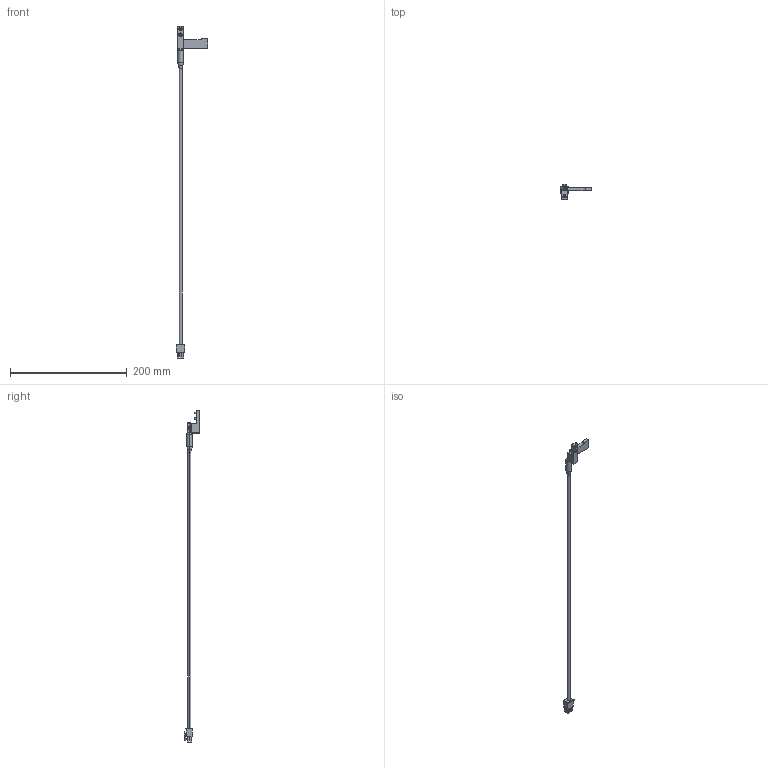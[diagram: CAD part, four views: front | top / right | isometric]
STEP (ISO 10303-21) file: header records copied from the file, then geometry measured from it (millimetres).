
FILE_DESCRIPTION (( 'STEP AP214' ), '1' );
FILE_NAME ('12ZP1660.STEP', '2013-10-10T05:50:26', ( '' ), ( '' ), 'SwSTEP 2.0', 'SolidWorks 2011', '' );
FILE_SCHEMA (( 'AUTOMOTIVE_DESIGN' ));
Length unit declared in the file: millimetre
Products named in the file (1): 12ZP1660
Bounding box: 53.39 x 27.1 x 569.5 mm (x, y, z)
Volume: 22012.5 mm3; surface area: 15533.7 mm2
Topology: 9 solids, 9 shells, 242 faces, 566 edges, 356 vertices
Faces by surface type: plane 155, cylinder 55, cone 18, torus 10, bspline 4
Entity records: 7096 total; most frequent: CARTESIAN_POINT 1364, DIRECTION 1145, ORIENTED_EDGE 1120, EDGE_CURVE 560, LINE 387, VECTOR 387, AXIS2_PLACEMENT_3D 379, VERTEX_POINT 356
